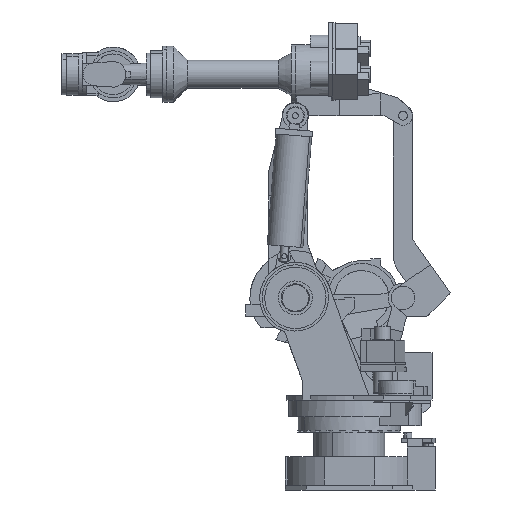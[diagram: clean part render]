
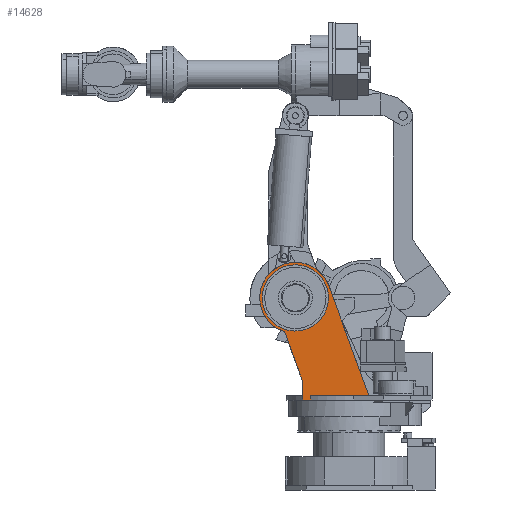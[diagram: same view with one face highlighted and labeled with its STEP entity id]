
A CAD part, left-side view. The second image highlights one B-rep face of the part: STEP entity #14628.
In plain terms, the highlighted planar face has unit normal (1, 0, 0).
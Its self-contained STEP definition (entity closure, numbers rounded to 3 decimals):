
#2228=CARTESIAN_POINT('Vertex',(-300.,280.,-2.)) ;
#2231=CARTESIAN_POINT('Line Origine',(-300.,256.619,-2.)) ;
#2235=CARTESIAN_POINT('Vertex',(-300.,233.238,-2.)) ;
#2429=CARTESIAN_POINT('Vertex',(-300.,280.,107.)) ;
#2432=CARTESIAN_POINT('Line Origine',(-300.,280.,66.)) ;
#2436=CARTESIAN_POINT('Vertex',(-300.,280.,25.)) ;
#2439=CARTESIAN_POINT('Line Origine',(-300.,280.,11.5)) ;
#3089=CARTESIAN_POINT('Vertex',(-300.,390.345,410.171)) ;
#3094=CARTESIAN_POINT('Line Origine',(-300.,335.173,258.585)) ;
#3723=CARTESIAN_POINT('Vertex',(-300.,122.966,688.534)) ;
#3726=CARTESIAN_POINT('Axis2P3D Location',(-300.,325.,615.)) ;
#4331=CARTESIAN_POINT('Vertex',(-300.,-118.541,25.)) ;
#4334=CARTESIAN_POINT('Line Origine',(-300.,2.213,356.767)) ;
#12943=CARTESIAN_POINT('Vertex',(-300.,420.885,790.516)) ;
#12946=CARTESIAN_POINT('Axis2P3D Location',(-300.,325.,615.)) ;
#12950=CARTESIAN_POINT('Vertex',(-300.,229.115,439.483)) ;
#12965=CARTESIAN_POINT('Axis2P3D Location',(-300.,325.,615.)) ;
#14589=CARTESIAN_POINT('Vertex',(-300.,233.238,25.)) ;
#14592=CARTESIAN_POINT('Line Origine',(-300.,233.238,11.5)) ;
#14604=CARTESIAN_POINT('Axis2P3D Location',(-300.,233.238,-5.)) ;
#14609=CARTESIAN_POINT('Line Origine',(-300.,57.349,25.)) ;
#2232=DIRECTION('Vector Direction',(0.,1.,0.)) ;
#2433=DIRECTION('Vector Direction',(0.,0.,1.)) ;
#2440=DIRECTION('Vector Direction',(0.,0.,1.)) ;
#3095=DIRECTION('Vector Direction',(0.,0.342,0.94)) ;
#3727=DIRECTION('Axis2P3D Direction',(-1.,0.,0.)) ;
#4335=DIRECTION('Vector Direction',(0.,0.342,0.94)) ;
#12947=DIRECTION('Axis2P3D Direction',(-1.,0.,0.)) ;
#12966=DIRECTION('Axis2P3D Direction',(-1.,0.,0.)) ;
#14593=DIRECTION('Vector Direction',(0.,0.,1.)) ;
#14605=DIRECTION('Axis2P3D Direction',(1.,0.,0.)) ;
#14606=DIRECTION('Axis2P3D XDirection',(0.,1.,0.)) ;
#14610=DIRECTION('Vector Direction',(0.,1.,0.)) ;
#3728=AXIS2_PLACEMENT_3D('Circle Axis2P3D',#3726,#3727,$) ;
#12948=AXIS2_PLACEMENT_3D('Circle Axis2P3D',#12946,#12947,$) ;
#12967=AXIS2_PLACEMENT_3D('Circle Axis2P3D',#12965,#12966,$) ;
#14607=AXIS2_PLACEMENT_3D('Plane Axis2P3D',#14604,#14605,#14606) ;
#14615=ORIENTED_EDGE('',*,*,#2438,.F.) ;
#14616=ORIENTED_EDGE('',*,*,#3098,.F.) ;
#14617=ORIENTED_EDGE('',*,*,#3730,.F.) ;
#14618=ORIENTED_EDGE('',*,*,#4338,.F.) ;
#14619=ORIENTED_EDGE('',*,*,#14613,.F.) ;
#14620=ORIENTED_EDGE('',*,*,#14596,.F.) ;
#14621=ORIENTED_EDGE('',*,*,#2237,.F.) ;
#14622=ORIENTED_EDGE('',*,*,#2443,.T.) ;
#14625=ORIENTED_EDGE('',*,*,#12952,.T.) ;
#14626=ORIENTED_EDGE('',*,*,#12969,.T.) ;
#14627=FACE_BOUND('',#14624,.T.) ;
#2233=VECTOR('Line Direction',#2232,1.) ;
#2434=VECTOR('Line Direction',#2433,1.) ;
#2441=VECTOR('Line Direction',#2440,1.) ;
#3096=VECTOR('Line Direction',#3095,1.) ;
#4336=VECTOR('Line Direction',#4335,1.) ;
#14594=VECTOR('Line Direction',#14593,1.) ;
#14611=VECTOR('Line Direction',#14610,1.) ;
#14628=ADVANCED_FACE('\X2\FF7BFF70FF8CFF6AFF7D\X0\.1',(#14623,#14627),#14608,.T.) ;
#3729=CIRCLE('generated circle',#3728,215.) ;
#12949=CIRCLE('generated circle',#12948,200.) ;
#12968=CIRCLE('generated circle',#12967,200.) ;
#2237=EDGE_CURVE('',#2229,#2236,#2234,.F.) ;
#2438=EDGE_CURVE('',#2430,#2437,#2435,.F.) ;
#2443=EDGE_CURVE('',#2229,#2437,#2442,.T.) ;
#3098=EDGE_CURVE('',#3090,#2430,#3097,.F.) ;
#3730=EDGE_CURVE('',#3724,#3090,#3729,.T.) ;
#4338=EDGE_CURVE('',#4332,#3724,#4337,.T.) ;
#12952=EDGE_CURVE('',#12951,#12944,#12949,.T.) ;
#12969=EDGE_CURVE('',#12944,#12951,#12968,.T.) ;
#14596=EDGE_CURVE('',#2236,#14590,#14595,.T.) ;
#14613=EDGE_CURVE('',#14590,#4332,#14612,.F.) ;
#14614=EDGE_LOOP('',(#14615,#14616,#14617,#14618,#14619,#14620,#14621,#14622)) ;
#14624=EDGE_LOOP('',(#14625,#14626)) ;
#14623=FACE_OUTER_BOUND('',#14614,.T.) ;
#2234=LINE('Line',#2231,#2233) ;
#2435=LINE('Line',#2432,#2434) ;
#2442=LINE('Line',#2439,#2441) ;
#3097=LINE('Line',#3094,#3096) ;
#4337=LINE('Line',#4334,#4336) ;
#14595=LINE('Line',#14592,#14594) ;
#14612=LINE('Line',#14609,#14611) ;
#14608=PLANE('',#14607) ;
#2229=VERTEX_POINT('',#2228) ;
#2236=VERTEX_POINT('',#2235) ;
#2430=VERTEX_POINT('',#2429) ;
#2437=VERTEX_POINT('',#2436) ;
#3090=VERTEX_POINT('',#3089) ;
#3724=VERTEX_POINT('',#3723) ;
#4332=VERTEX_POINT('',#4331) ;
#12944=VERTEX_POINT('',#12943) ;
#12951=VERTEX_POINT('',#12950) ;
#14590=VERTEX_POINT('',#14589) ;
